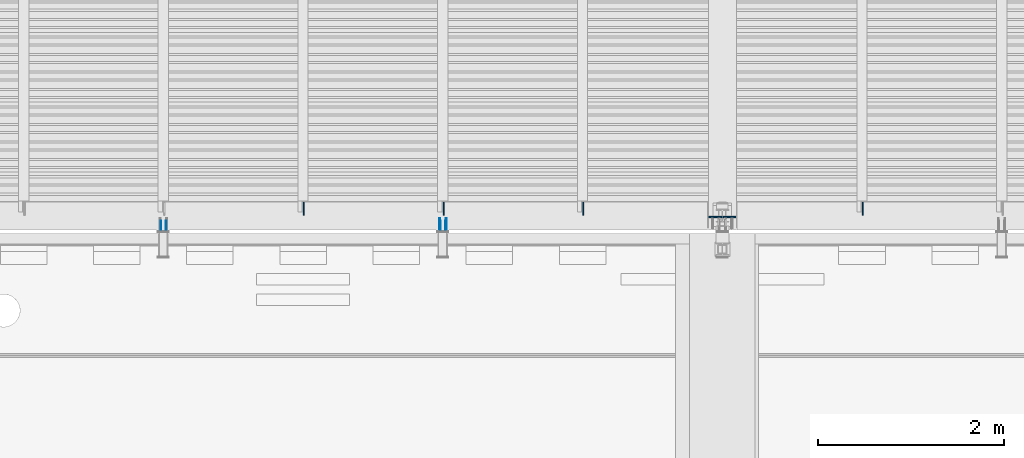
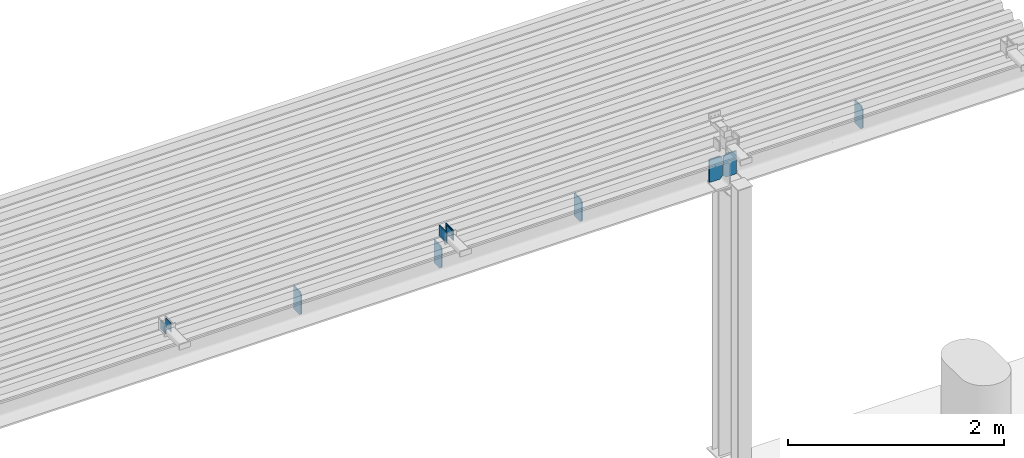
# One storey, part 15 of 34: 12 plates.
"""IFC2X3 building model written with IfcOpenShell, lengths in millimetres."""

from ifc_helpers import new_model, entity, si_unit, converted_unit, derived_unit, direction, frame, origin_with_axes, place, context, subcontext, project, spatial, polyline, outline, extrude, material, type_object, element, save


model = new_model("IFC2X3")

# Units and contexts
model_context = context("Model", 3, precision=0.01, world=frame((0.0, 4.29681676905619e-09, 0.0)), true_north=direction((4.01073788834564e-13, 1.0)))
plan_context = context("Plan", 3, precision=0.01, world=frame((0.0, 4.29681676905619e-09, 0.0)), true_north=direction((4.01073788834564e-13, 1.0)))
body_context = subcontext(model_context, "Body", "Model", "MODEL_VIEW")
ifc_project = project(units=[converted_unit("PLANEANGLEUNIT", "DEGREE", entity("IfcPositiveLengthMeasure", 0.0174532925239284), si_unit("PLANEANGLEUNIT", "RADIAN"), dimensions=[0, 0, 0, 0, 0, 0, 0]), si_unit("AREAUNIT", "SQUARE_METRE"), si_unit("LENGTHUNIT", "METRE", prefix="MILLI"), si_unit("MASSUNIT", "GRAM", prefix="KILO"), si_unit("POWERUNIT", "WATT"), si_unit("PRESSUREUNIT", "PASCAL"), si_unit("FORCEUNIT", "NEWTON", prefix="KILO"), si_unit("ELECTRICVOLTAGEUNIT", "VOLT"), si_unit("ELECTRICCURRENTUNIT", "AMPERE"), si_unit("THERMODYNAMICTEMPERATUREUNIT", "DEGREE_CELSIUS"), si_unit("TIMEUNIT", "SECOND"), si_unit("VOLUMEUNIT", "CUBIC_METRE"), derived_unit("LINEARVELOCITYUNIT", [(si_unit("LENGTHUNIT", "METRE"), 1), (si_unit("TIMEUNIT", "SECOND"), -1)]), derived_unit("VOLUMETRICFLOWRATEUNIT", [(si_unit("VOLUMEUNIT", "CUBIC_METRE"), 1), (si_unit("TIMEUNIT", "SECOND"), -1)]), derived_unit("THERMALTRANSMITTANCEUNIT", [(si_unit("POWERUNIT", "WATT"), 1), (si_unit("THERMODYNAMICTEMPERATUREUNIT", "KELVIN"), -1), (si_unit("AREAUNIT", "SQUARE_METRE"), -1)]), derived_unit("SOUNDPRESSUREUNIT", [(si_unit("PRESSUREUNIT", "PASCAL"), 1)])], contexts=[model_context, plan_context])

# Site, building, storey
site_placement = place(None, frame((0.0, -4.29681676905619e-09, 0.0), z_axis=(0.0, 0.0, 1.0), x_axis=(1.0, 0.0, 0.0)))
site = spatial("IfcSite", under=ifc_project, at=site_placement, Name="Gardermoen", CompositionType="ELEMENT")
building_placement = place(site_placement, frame((0.0, 4.29681676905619e-09, 0.0), z_axis=(0.0, 0.0, 1.0), x_axis=(1.0, 0.0, 0.0)))
building = spatial("IfcBuilding", under=site, at=building_placement, Name="TH", CompositionType="ELEMENT")
storey_placement = place(building_placement, origin_with_axes())
storey = spatial("IfcBuildingStorey", under=building, at=storey_placement, Name="F", CompositionType="ELEMENT", Elevation=0.0)

# Plates
ifc_material_1 = material(Name="STEEL/S355")
plate_type_1 = type_object("IfcPlateType", Name="PL12*140", PredefinedType="NOTDEFINED")
for number, where, z_axis, x_axis in (
    (1, (908508.949781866, 485005.495625, 213167.0), (1.0, 0.0, 0.0), (0.0, 0.707106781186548, -0.707106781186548)),
    (2, (907005.500000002, 484988.495625, 213167.0), (0.0, -1.0, 0.0), (0.707106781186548, 0.0, -0.707106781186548)),
    (3, (905508.949781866, 485005.495625, 213167.0), (1.0, 0.0, 0.0), (0.0, 0.707106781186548, -0.707106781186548)),
    (4, (904008.949781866, 485005.495625, 213167.0), (1.0, 0.0, 0.0), (0.0, 0.707106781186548, -0.707106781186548)),
    (5, (902508.949781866, 485005.495625, 213167.0), (1.0, 0.0, 0.0), (0.0, 0.707106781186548, -0.707106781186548)),
    (6, (906994.500000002, 484988.495625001, 213167.0), (0.0, 1.0, 0.0), (-0.707106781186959, 0.0, -0.707106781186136)),
):
    element("IfcPlate", number, at=place(storey_placement, frame(where, z_axis=z_axis, x_axis=x_axis)), inside=storey, type_object=plate_type_1, material=ifc_material_1, Name="STÅLBJELKE", ObjectType="PL12*140", context=body_context, shape_type="SweptSolid", body=[
        extrude(outline(polyline([(0.0, 0.0), (38.1837654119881, -5.82076609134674e-11), (118.086830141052, 79.9030685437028), (-65.7609252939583, 263.750823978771), (-145.664001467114, 183.847763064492), (-145.664001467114, 145.664001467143), (0.0, 0.0)])), frame((5.82076609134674e-11, 0.0, -6.0), z_axis=(0.0, 0.0, 1.0), x_axis=(1.0, 0.0, 0.0)), (0.0, 0.0, 1.0), 12.0),
    ])
plate_type_2 = type_object("IfcPlateType", Name="PL10*120", PredefinedType="NOTDEFINED")
for number, where, z_axis, x_axis in (
    (7, (903965.000000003, 484834.999999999, 213560.00092537), (1.0, 0.0, 0.0), (0.0, 1.0, 0.0)),
    (8, (904035.000000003, 484834.999999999, 213560.00092537), (1.0, 0.0, 0.0), (0.0, 1.0, 0.0)),
):
    element("IfcPlate", number, at=place(storey_placement, frame(where, z_axis=z_axis, x_axis=x_axis)), inside=storey, type_object=plate_type_2, material=ifc_material_1, Name="STÅLSPESIAL", ObjectType="PL10*120", context=body_context, shape_type="SweptSolid", body=[
        extrude(outline(polyline([(0.0, 0.0), (137.0, 2.91038304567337e-11), (137.0, 120.0), (0.0, 120.0), (0.0, 0.0)])), frame((0.0, 0.0, -5.0), z_axis=(0.0, 0.0, 1.0), x_axis=(1.0, 0.0, 0.0)), (0.0, 0.0, 1.0), 10.0),
    ])
ifc_material_2 = material(Name="STEEL/AISI304")
plate_type_3 = type_object("IfcPlateType", Name="PL5*100", PredefinedType="NOTDEFINED")
for number, where, z_axis, x_axis in (
    (9, (903972.500000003, 484849.999999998, 213570.00092537), (1.0, 0.0, 0.0), (0.0, 1.0, 0.0)),
    (10, (904027.500000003, 484849.999999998, 213570.00092537), (1.0, 0.0, 0.0), (0.0, 1.0, 0.0)),
    (11, (900972.500000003, 484849.999999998, 213570.00092537), (1.0, 0.0, 0.0), (0.0, 1.0, 0.0)),
    (12, (901027.500000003, 484849.999999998, 213570.00092537), (1.0, 0.0, 0.0), (0.0, 1.0, 0.0)),
):
    element("IfcPlate", number, at=place(storey_placement, frame(where, z_axis=z_axis, x_axis=x_axis)), inside=storey, type_object=plate_type_3, material=ifc_material_2, Name="STÅLMONTASJE", ObjectType="PL5*100", context=body_context, shape_type="SweptSolid", body=[
        extrude(outline(polyline([(0.0, 0.0), (100.0, -1.16415321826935e-10), (99.9999999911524, 100.0), (0.0, 100.0), (0.0, 0.0)])), frame((0.0, 0.0, -2.5), z_axis=(0.0, 0.0, 1.0), x_axis=(1.0, 0.0, 0.0)), (0.0, 0.0, 1.0), 5.0),
    ])

save(model, "model.ifc")
